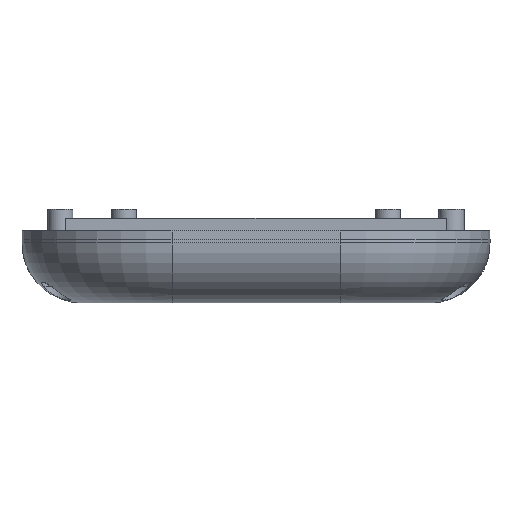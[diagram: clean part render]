
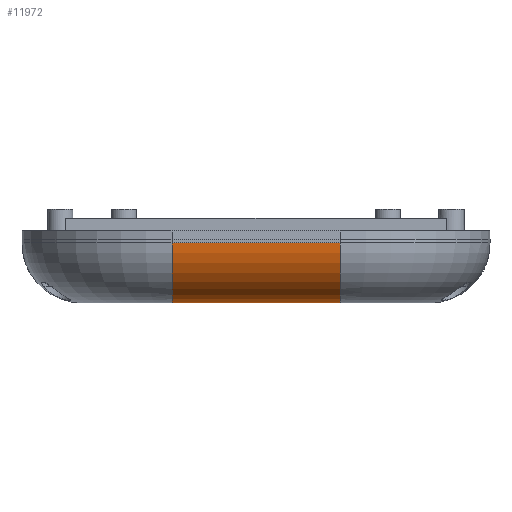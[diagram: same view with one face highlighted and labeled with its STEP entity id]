
A CAD part, front view. The second image highlights one B-rep face of the part: STEP entity #11972.
In plain terms, the highlighted cylindrical face has radius 10 mm (diameter 20 mm), a partial arc.
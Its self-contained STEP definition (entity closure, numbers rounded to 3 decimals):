
#441=CIRCLE('',#12260,10.);
#730=CIRCLE('',#13019,10.);
#913=CYLINDRICAL_SURFACE('',#13080,10.);
#1551=FACE_OUTER_BOUND('',#2205,.T.);
#2205=EDGE_LOOP('',(#10919,#10920,#10921,#10922));
#3300=LINE('',#24011,#4390);
#3307=LINE('',#24028,#4397);
#4390=VECTOR('',#16288,1.);
#4397=VECTOR('',#16313,1.);
#4838=VERTEX_POINT('',#20641);
#4839=VERTEX_POINT('',#20643);
#5613=VERTEX_POINT('',#23912);
#5614=VERTEX_POINT('',#23913);
#6140=EDGE_CURVE('',#4839,#4838,#441,.T.);
#7356=EDGE_CURVE('',#5613,#5614,#730,.T.);
#7399=EDGE_CURVE('',#4838,#5614,#3300,.T.);
#7407=EDGE_CURVE('',#5613,#4839,#3307,.T.);
#10919=ORIENTED_EDGE('',*,*,#6140,.T.);
#10920=ORIENTED_EDGE('',*,*,#7399,.T.);
#10921=ORIENTED_EDGE('',*,*,#7356,.F.);
#10922=ORIENTED_EDGE('',*,*,#7407,.T.);
#11972=ADVANCED_FACE('',(#1551),#913,.T.);
#12260=AXIS2_PLACEMENT_3D('',#20644,#13824,#13825);
#13019=AXIS2_PLACEMENT_3D('',#23914,#16159,#16160);
#13080=AXIS2_PLACEMENT_3D('',#24037,#16325,#16326);
#13824=DIRECTION('center_axis',(1.,0.,0.));
#13825=DIRECTION('ref_axis',(0.,-1.,0.));
#16159=DIRECTION('center_axis',(1.,0.,0.));
#16160=DIRECTION('ref_axis',(0.,-1.,0.));
#16288=DIRECTION('',(1.,0.,0.));
#16313=DIRECTION('',(-1.,0.,0.));
#16325=DIRECTION('center_axis',(-1.,0.,0.));
#16326=DIRECTION('ref_axis',(0.,-0.707,-0.707));
#20641=CARTESIAN_POINT('',(-14.,-65.,-24.));
#20643=CARTESIAN_POINT('',(-14.,-75.,-14.));
#20644=CARTESIAN_POINT('Origin',(-14.,-65.,-14.));
#23912=CARTESIAN_POINT('',(14.,-75.,-14.));
#23913=CARTESIAN_POINT('',(14.,-65.,-24.));
#23914=CARTESIAN_POINT('Origin',(14.,-65.,-14.));
#24011=CARTESIAN_POINT('',(7.,-65.,-24.));
#24028=CARTESIAN_POINT('',(7.,-75.,-14.));
#24037=CARTESIAN_POINT('Origin',(7.,-65.,-14.));
